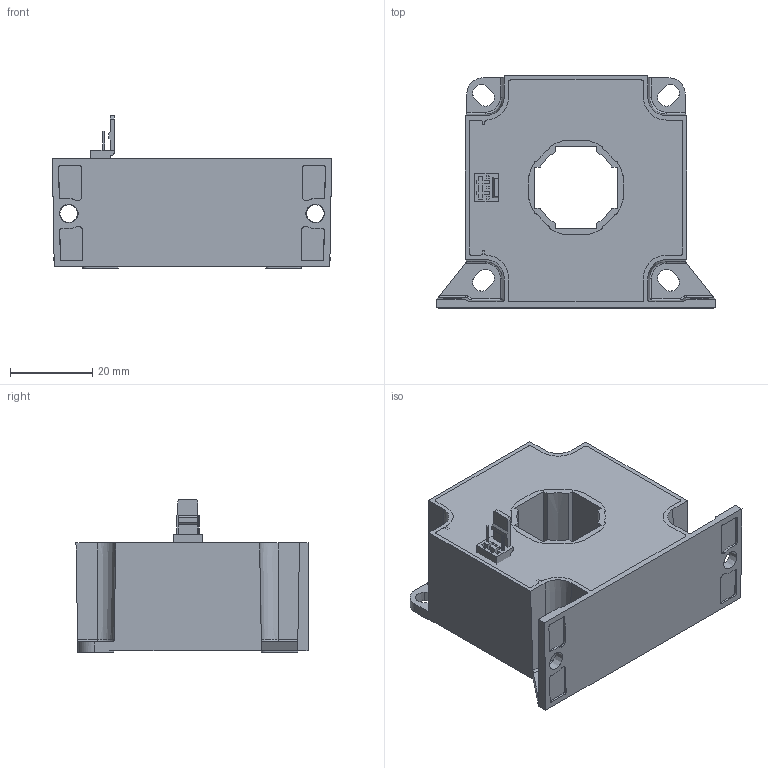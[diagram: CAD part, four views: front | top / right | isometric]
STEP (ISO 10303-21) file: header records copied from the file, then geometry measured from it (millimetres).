
FILE_DESCRIPTION((''),'2;1');
FILE_NAME('Z:\CAPM\Capteur effet hall\Produits\Gamme de produit standard\Courant\MSA300\MSA305\MSA305_Enveloppe_1.stp','2012-02-17T13:07:38',('lm'),(''),'Autodesk Inventor 2012','Autodesk Inventor 2012','');
FILE_SCHEMA(('AUTOMOTIVE_DESIGN { 1 0 10303 214 1 1 1 1 }'));
Length unit declared in the file: millimetre
Products named in the file (1): MSA305_Enveloppe_1
Bounding box: 68 x 56.5 x 37.1 mm (x, y, z)
Surface area: 15260.9 mm2 (no closed solid volume)
Topology: 0 solids, 17 shells, 217 faces, 1059 edges, 859 vertices
Faces by surface type: plane 136, cylinder 43, cone 28, bspline 4, torus 4, sphere 2
Entity records: 11202 total; most frequent: CARTESIAN_POINT 2870, ORIENTED_EDGE 1577, DIRECTION 1555, EDGE_CURVE 1057, VERTEX_POINT 859, VECTOR 671, LINE 671, AXIS2_PLACEMENT_3D 442
